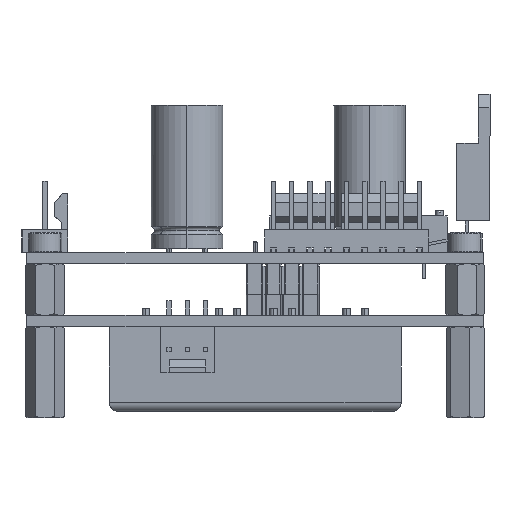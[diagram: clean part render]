
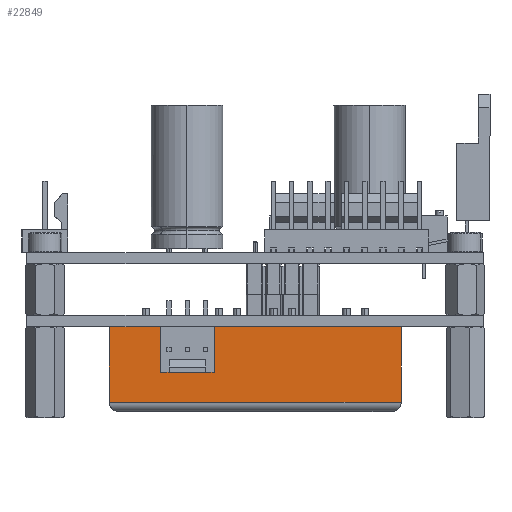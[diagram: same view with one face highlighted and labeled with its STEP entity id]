
A CAD part, left-side view. The second image highlights one B-rep face of the part: STEP entity #22849.
In plain terms, the highlighted planar face has unit normal (-1, 0, 0).
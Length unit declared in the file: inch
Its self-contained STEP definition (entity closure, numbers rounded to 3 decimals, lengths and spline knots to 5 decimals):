
#1624 = DIRECTION ( 'NONE',  ( 0., -1., 0. ) ) ;
#2271 = AXIS2_PLACEMENT_3D ( 'NONE', #26104, #5766, #32660 ) ;
#2452 = FACE_OUTER_BOUND ( 'NONE', #36484, .T. ) ;
#2638 = VECTOR ( 'NONE', #41888, 39.37008 ) ;
#3719 = LINE ( 'NONE', #28519, #2638 ) ;
#5545 = DIRECTION ( 'NONE',  ( 0., -1., 0. ) ) ;
#5766 = DIRECTION ( 'NONE',  ( 1., 0., 0. ) ) ;
#7445 = CARTESIAN_POINT ( 'NONE',  ( 0., 1.598, 0.465 ) ) ;
#7730 = LINE ( 'NONE', #39788, #20902 ) ;
#8674 = VERTEX_POINT ( 'NONE', #7445 ) ;
#11385 = EDGE_CURVE ( 'NONE', #8674, #14583, #3719, .T. ) ;
#12319 = CARTESIAN_POINT ( 'NONE',  ( 0., 1.598, 0.05 ) ) ;
#14583 = VERTEX_POINT ( 'NONE', #12319 ) ;
#14892 = LINE ( 'NONE', #43066, #22398 ) ;
#16358 = EDGE_CURVE ( 'NONE', #8674, #20543, #32427, .T. ) ;
#17598 = CARTESIAN_POINT ( 'NONE',  ( 0., 0., 0.465 ) ) ;
#18370 = VERTEX_POINT ( 'NONE', #42937 ) ;
#18489 = VECTOR ( 'NONE', #5545, 39.37008 ) ;
#18978 = CARTESIAN_POINT ( 'NONE',  ( 0., 0., 0.465 ) ) ;
#19577 = DIRECTION ( 'NONE',  ( 0., 0., -1. ) ) ;
#20543 = VERTEX_POINT ( 'NONE', #17598 ) ;
#20902 = VECTOR ( 'NONE', #19577, 39.37008 ) ;
#21703 = ORIENTED_EDGE ( 'NONE', *, *, #11385, .T. ) ;
#22398 = VECTOR ( 'NONE', #1624, 39.37008 ) ;
#22618 = PLANE ( 'NONE',  #2271 ) ;
#22849 = ADVANCED_FACE ( 'NONE', ( #2452 ), #22618, .F. ) ;
#26104 = CARTESIAN_POINT ( 'NONE',  ( 0., 0., 0.465 ) ) ;
#26441 = ORIENTED_EDGE ( 'NONE', *, *, #16358, .F. ) ;
#28519 = CARTESIAN_POINT ( 'NONE',  ( 0., 1.598, 0.465 ) ) ;
#29332 = EDGE_CURVE ( 'NONE', #14583, #18370, #14892, .T. ) ;
#30717 = ORIENTED_EDGE ( 'NONE', *, *, #29332, .T. ) ;
#31297 = EDGE_CURVE ( 'NONE', #20543, #18370, #7730, .T. ) ;
#32427 = LINE ( 'NONE', #18978, #18489 ) ;
#32660 = DIRECTION ( 'NONE',  ( 0., 0., -1. ) ) ;
#33876 = ORIENTED_EDGE ( 'NONE', *, *, #31297, .F. ) ;
#36484 = EDGE_LOOP ( 'NONE', ( #21703, #30717, #33876, #26441 ) ) ;
#39788 = CARTESIAN_POINT ( 'NONE',  ( 0., 0., 0.465 ) ) ;
#41888 = DIRECTION ( 'NONE',  ( 0., 0., -1. ) ) ;
#42937 = CARTESIAN_POINT ( 'NONE',  ( 0., 0., 0.05 ) ) ;
#43066 = CARTESIAN_POINT ( 'NONE',  ( 0., 0., 0.05 ) ) ;
